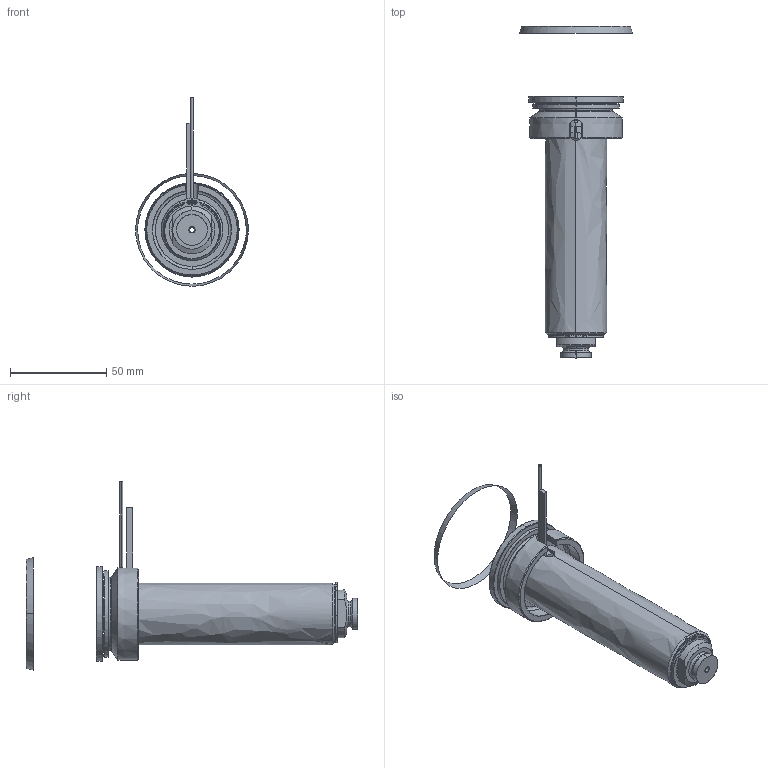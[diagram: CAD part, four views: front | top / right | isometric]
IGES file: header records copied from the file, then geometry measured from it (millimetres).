
Start section: SolidWorks IGES file using analytic representation for surfaces
Global section: file name: C:\Documents and Settings\ws-20\Desktop\TEMPORANEA\UGBE5003-S-A-3 [Ød-2.5 P-0 ØC-13].IGS; native system: SolidWorks 2012; preprocessor: SolidWorks 2012; author: ws-20; date: 120306.162201; units: millimetre
Bounding box: 58.57 x 172.44 x 97.91 mm (x, y, z)
Surface area: 51665.4 mm2 (no closed solid volume)
Topology: 0 solids, 0 shells, 111 faces, 2122 edges, 2122 vertices
Faces by surface type: revolution 68, bspline 43
